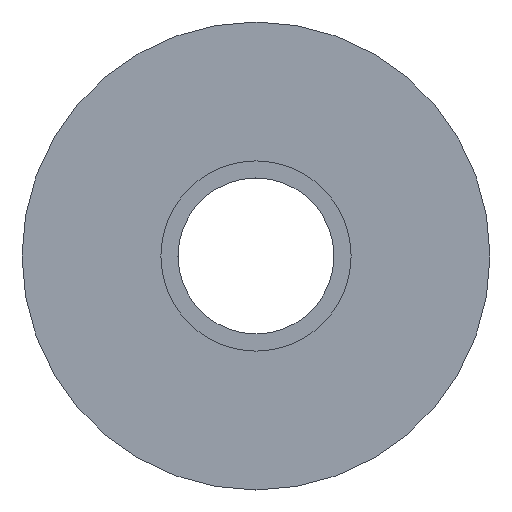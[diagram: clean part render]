
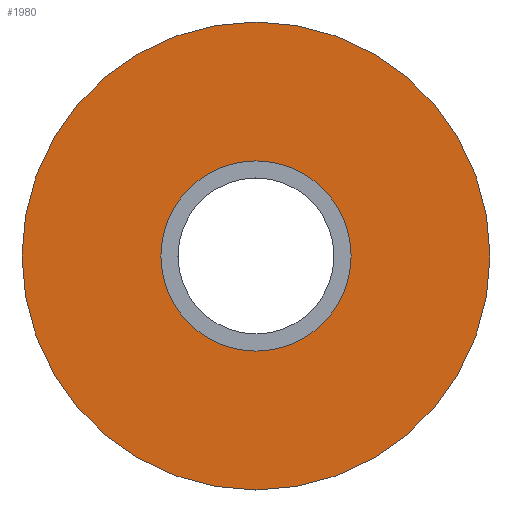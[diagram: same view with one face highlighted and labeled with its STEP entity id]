
A CAD part, left-side view. The second image highlights one B-rep face of the part: STEP entity #1980.
In plain terms, the highlighted planar face has unit normal (-1, 0, 0).
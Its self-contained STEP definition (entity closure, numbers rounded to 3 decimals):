
#151=FACE_OUTER_BOUND($,#754,.T.);
#427=FACE_BOUND($,#755,.T.);
#754=EDGE_LOOP($,(#1574));
#755=EDGE_LOOP($,(#1575));
#915=CIRCLE($,#2302,15.);
#919=CIRCLE($,#2310,6.1);
#1079=VERTEX_POINT($,#3448);
#1083=VERTEX_POINT($,#3460);
#1243=EDGE_CURVE($,#1079,#1079,#915,.T.);
#1247=EDGE_CURVE($,#1083,#1083,#919,.T.);
#1574=ORIENTED_EDGE($,*,*,#1243,.F.);
#1575=ORIENTED_EDGE($,*,*,#1247,.T.);
#1651=PLANE($,#2311);
#1980=ADVANCED_FACE($,(#151,#427),#1651,.T.);
#2302=AXIS2_PLACEMENT_3D($,#3449,#2950,#2951);
#2310=AXIS2_PLACEMENT_3D($,#3461,#2966,#2967);
#2311=AXIS2_PLACEMENT_3D($,#3462,#2968,#2969);
#2950=DIRECTION('center_axis',(1.,0.,0.));
#2951=DIRECTION('ref_axis',(0.,-1.,0.));
#2966=DIRECTION('center_axis',(1.,0.,0.));
#2967=DIRECTION('ref_axis',(0.,-1.,0.));
#2968=DIRECTION('center_axis',(-1.,0.,0.));
#2969=DIRECTION('ref_axis',(0.,0.,
-1.));
#3448=CARTESIAN_POINT('',(-16.,-15.,0.));
#3449=CARTESIAN_POINT('Origin',(-16.,0.,0.));
#3460=CARTESIAN_POINT('',(-16.,-6.1,0.));
#3461=CARTESIAN_POINT('Origin',(-16.,0.,0.));
#3462=CARTESIAN_POINT('Origin',(-16.,-10.55,0.));
